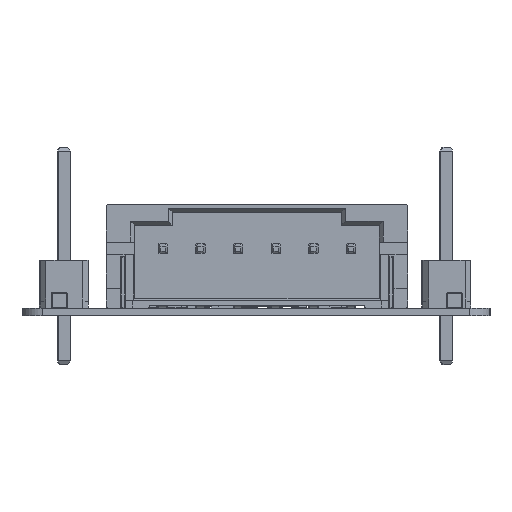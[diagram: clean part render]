
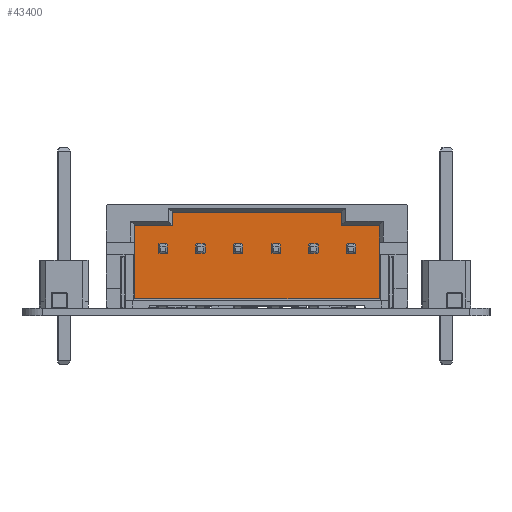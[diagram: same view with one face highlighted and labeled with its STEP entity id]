
A CAD part, left-side view. The second image highlights one B-rep face of the part: STEP entity #43400.
In plain terms, the highlighted planar face has unit normal (-1, 0, 0) as drawn and (0, -1, 0) by its records, which use the part's own axes.
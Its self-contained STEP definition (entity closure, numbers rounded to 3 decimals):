
#42506 = VERTEX_POINT('',#42507);
#42507 = CARTESIAN_POINT('',(-6.5,3.35,0.55));
#42513 = EDGE_CURVE('',#42506,#42514,#42516,.T.);
#42514 = VERTEX_POINT('',#42515);
#42515 = CARTESIAN_POINT('',(-6.5,3.35,4.45));
#42516 = LINE('',#42517,#42518);
#42517 = CARTESIAN_POINT('',(-6.5,3.35,0.05));
#42518 = VECTOR('',#42519,1.);
#42519 = DIRECTION('',(0.,0.,1.));
#42608 = VERTEX_POINT('',#42609);
#42609 = CARTESIAN_POINT('',(-5.5,3.35,4.45));
#42962 = VERTEX_POINT('',#42963);
#42963 = CARTESIAN_POINT('',(5.5,3.35,4.45));
#43017 = EDGE_CURVE('',#43018,#43020,#43022,.T.);
#43018 = VERTEX_POINT('',#43019);
#43019 = CARTESIAN_POINT('',(6.5,3.35,4.45));
#43020 = VERTEX_POINT('',#43021);
#43021 = CARTESIAN_POINT('',(6.5,3.35,0.55));
#43022 = LINE('',#43023,#43024);
#43023 = CARTESIAN_POINT('',(6.5,3.35,6.05));
#43024 = VECTOR('',#43025,1.);
#43025 = DIRECTION('',(0.,0.,-1.));
#43388 = EDGE_CURVE('',#42514,#42608,#43389,.T.);
#43389 = LINE('',#43390,#43391);
#43390 = CARTESIAN_POINT('',(-5.4,3.35,4.45));
#43391 = VECTOR('',#43392,1.);
#43392 = DIRECTION('',(1.,0.,0.));
#43400 = ADVANCED_FACE('',(#43401),#43456,.T.);
#43401 = FACE_BOUND('',#43402,.T.);
#43402 = EDGE_LOOP('',(#43403,#43411,#43412,#43413,#43419,#43420,#43426,
    #43434,#43442,#43450));
#43403 = ORIENTED_EDGE('',*,*,#43404,.T.);
#43404 = EDGE_CURVE('',#43405,#42608,#43407,.T.);
#43405 = VERTEX_POINT('',#43406);
#43406 = CARTESIAN_POINT('',(-4.5,3.35,4.45));
#43407 = LINE('',#43408,#43409);
#43408 = CARTESIAN_POINT('',(-7.8,3.35,4.45));
#43409 = VECTOR('',#43410,1.);
#43410 = DIRECTION('',(-1.,0.,0.));
#43411 = ORIENTED_EDGE('',*,*,#43388,.F.);
#43412 = ORIENTED_EDGE('',*,*,#42513,.F.);
#43413 = ORIENTED_EDGE('',*,*,#43414,.T.);
#43414 = EDGE_CURVE('',#42506,#43020,#43415,.T.);
#43415 = LINE('',#43416,#43417);
#43416 = CARTESIAN_POINT('',(-7.8,3.35,0.55));
#43417 = VECTOR('',#43418,1.);
#43418 = DIRECTION('',(1.,0.,0.));
#43419 = ORIENTED_EDGE('',*,*,#43017,.F.);
#43420 = ORIENTED_EDGE('',*,*,#43421,.T.);
#43421 = EDGE_CURVE('',#43018,#42962,#43422,.T.);
#43422 = LINE('',#43423,#43424);
#43423 = CARTESIAN_POINT('',(-7.8,3.35,4.45));
#43424 = VECTOR('',#43425,1.);
#43425 = DIRECTION('',(-1.,0.,0.));
#43426 = ORIENTED_EDGE('',*,*,#43427,.T.);
#43427 = EDGE_CURVE('',#42962,#43428,#43430,.T.);
#43428 = VERTEX_POINT('',#43429);
#43429 = CARTESIAN_POINT('',(4.5,3.35,4.45));
#43430 = LINE('',#43431,#43432);
#43431 = CARTESIAN_POINT('',(-7.8,3.35,4.45));
#43432 = VECTOR('',#43433,1.);
#43433 = DIRECTION('',(-1.,0.,0.));
#43434 = ORIENTED_EDGE('',*,*,#43435,.F.);
#43435 = EDGE_CURVE('',#43436,#43428,#43438,.T.);
#43436 = VERTEX_POINT('',#43437);
#43437 = CARTESIAN_POINT('',(4.5,3.35,5.15));
#43438 = LINE('',#43439,#43440);
#43439 = CARTESIAN_POINT('',(4.5,3.35,5.82));
#43440 = VECTOR('',#43441,1.);
#43441 = DIRECTION('',(0.,0.,-1.));
#43442 = ORIENTED_EDGE('',*,*,#43443,.T.);
#43443 = EDGE_CURVE('',#43436,#43444,#43446,.T.);
#43444 = VERTEX_POINT('',#43445);
#43445 = CARTESIAN_POINT('',(-4.5,3.35,5.15));
#43446 = LINE('',#43447,#43448);
#43447 = CARTESIAN_POINT('',(-7.8,3.35,5.15));
#43448 = VECTOR('',#43449,1.);
#43449 = DIRECTION('',(-1.,0.,0.));
#43450 = ORIENTED_EDGE('',*,*,#43451,.F.);
#43451 = EDGE_CURVE('',#43405,#43444,#43452,.T.);
#43452 = LINE('',#43453,#43454);
#43453 = CARTESIAN_POINT('',(-4.5,3.35,3.78));
#43454 = VECTOR('',#43455,1.);
#43455 = DIRECTION('',(0.,0.,1.));
#43456 = PLANE('',#43457);
#43457 = AXIS2_PLACEMENT_3D('',#43458,#43459,#43460);
#43458 = CARTESIAN_POINT('',(-7.8,3.35,5.61));
#43459 = DIRECTION('',(0.,-1.,0.));
#43460 = DIRECTION('',(0.,0.,-1.));
